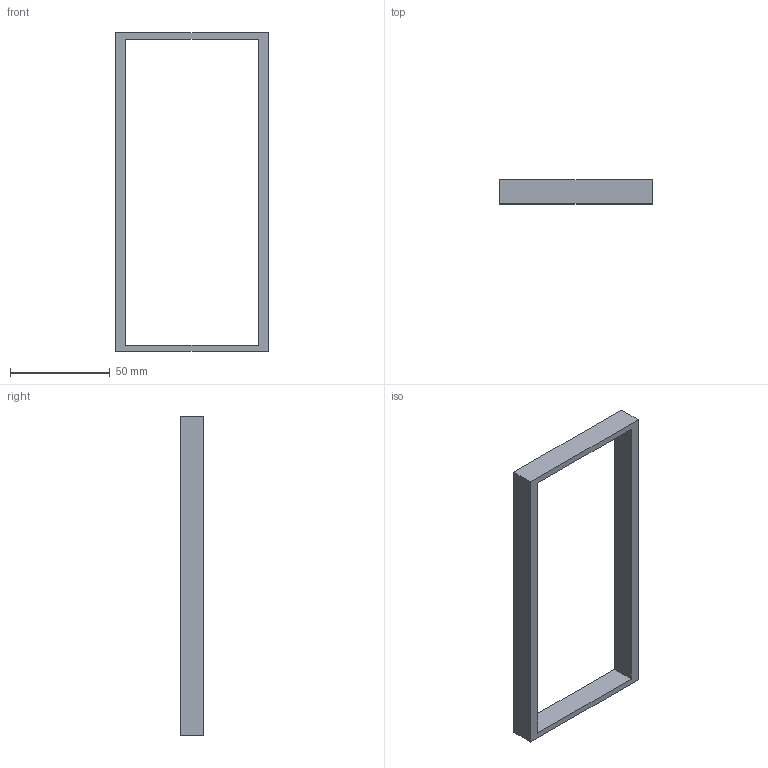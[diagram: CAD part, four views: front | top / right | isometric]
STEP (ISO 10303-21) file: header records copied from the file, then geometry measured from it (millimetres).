
FILE_DESCRIPTION(('FreeCAD Model'),'2;1');
FILE_NAME('Open CASCADE Shape Model','2026-09-11T17:58:35',( '' ),( '' ),'Open CASCADE STEP processor 7.8','FreeCAD','Unknown');
FILE_SCHEMA(('AUTOMOTIVE_DESIGN { 1 0 10303 214 1 1 1 1 }'));
Length unit declared in the file: millimetre
Products named in the file (1): Open CASCADE STEP translator 7.8 14
Bounding box: 76.4 x 12 x 159.8 mm (x, y, z)
Volume: 24116.2 mm3; surface area: 14968.2 mm2
Topology: 1 solids, 1 shells, 10 faces, 24 edges, 16 vertices
Faces by surface type: plane 10
Entity records: 302 total; most frequent: CARTESIAN_POINT 51, ORIENTED_EDGE 48, DIRECTION 46, EDGE_CURVE 24, LINE 24, VECTOR 24, VERTEX_POINT 16, FACE_BOUND 12
